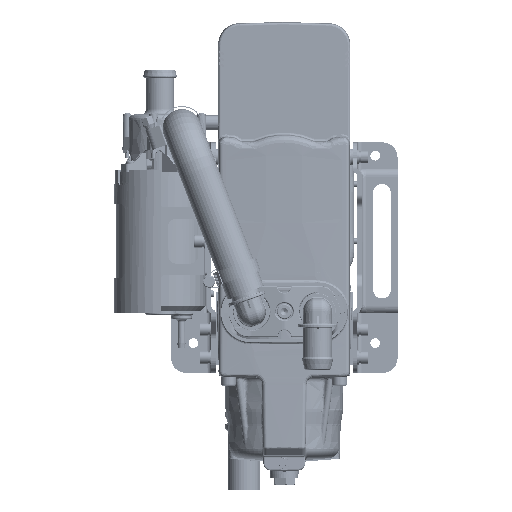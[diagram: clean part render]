
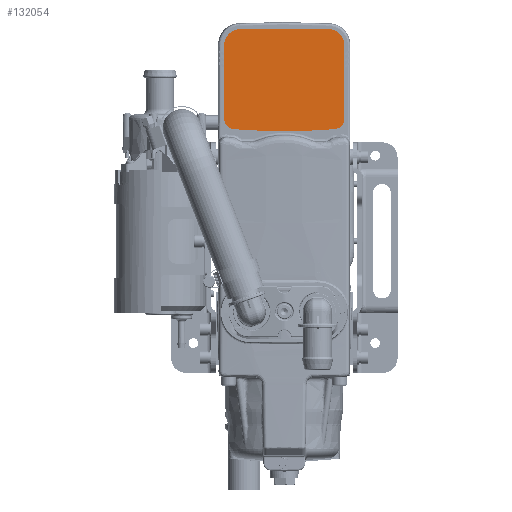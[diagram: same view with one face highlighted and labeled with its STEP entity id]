
A CAD part, front view. The second image highlights one B-rep face of the part: STEP entity #132054.
In plain terms, the highlighted planar face has unit normal (0, -1, 0).
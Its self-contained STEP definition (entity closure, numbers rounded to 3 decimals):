
#1310 = VERTEX_POINT ( 'NONE', #360864 ) ;
#2999 = CIRCLE ( 'NONE', #163558, 11.252 ) ;
#3637 = DIRECTION ( 'NONE',  ( 0., 0., -1. ) ) ;
#7948 = AXIS2_PLACEMENT_3D ( 'NONE', #52072, #330786, #440317 ) ;
#8340 = VERTEX_POINT ( 'NONE', #16559 ) ;
#16559 = CARTESIAN_POINT ( 'NONE',  ( -13.461, 128.99, 667.293 ) ) ;
#24736 = CARTESIAN_POINT ( 'NONE',  ( 60.728, 128.99, 674.517 ) ) ;
#25340 = ORIENTED_EDGE ( 'NONE', *, *, #266203, .T. ) ;
#27252 = AXIS2_PLACEMENT_3D ( 'NONE', #419494, #348677, #3637 ) ;
#27519 = EDGE_CURVE ( 'NONE', #37911, #448576, #249853, .T. ) ;
#37280 = CIRCLE ( 'NONE', #395009, 7.25 ) ;
#37911 = VERTEX_POINT ( 'NONE', #304755 ) ;
#44214 = CARTESIAN_POINT ( 'NONE',  ( -20.082, 128.99, -2.558 ) ) ;
#48768 = LINE ( 'NONE', #138672, #214963 ) ;
#49953 = ORIENTED_EDGE ( 'NONE', *, *, #377100, .T. ) ;
#52072 = CARTESIAN_POINT ( 'NONE',  ( 20.316, 128.99, 1063.359 ) ) ;
#58261 = EDGE_LOOP ( 'NONE', ( #49953, #244559, #133042, #286955, #271293, #25340, #291588, #105146, #297446, #74682 ) ) ;
#60861 = EDGE_CURVE ( 'NONE', #448576, #385231, #187797, .T. ) ;
#63177 = CARTESIAN_POINT ( 'NONE',  ( 0., 128.99, -2.557 ) ) ;
#74682 = ORIENTED_EDGE ( 'NONE', *, *, #60861, .T. ) ;
#82259 = DIRECTION ( 'NONE',  ( 0., -1., 0. ) ) ;
#86782 = DIRECTION ( 'NONE',  ( -1., 0., 0. ) ) ;
#88253 = CIRCLE ( 'NONE', #7948, 397.504 ) ;
#96712 = DIRECTION ( 'NONE',  ( -1., 0., 0.001 ) ) ;
#105146 = ORIENTED_EDGE ( 'NONE', *, *, #278396, .T. ) ;
#117456 = EDGE_CURVE ( 'NONE', #1310, #259241, #153840, .T. ) ;
#119962 = VECTOR ( 'NONE', #226845, 1000. ) ;
#121549 = DIRECTION ( 'NONE',  ( 0., 0., -1. ) ) ;
#132054 = ADVANCED_FACE ( 'NONE', ( #326691 ), #155329, .T. ) ;
#133042 = ORIENTED_EDGE ( 'NONE', *, *, #117456, .T. ) ;
#134304 = CARTESIAN_POINT ( 'NONE',  ( 60.728, 128.99, 723.462 ) ) ;
#138672 = CARTESIAN_POINT ( 'NONE',  ( 60.728, 128.99, -2.557 ) ) ;
#142808 = CARTESIAN_POINT ( 'NONE',  ( 53.478, 128.99, 674.517 ) ) ;
#144904 = CARTESIAN_POINT ( 'NONE',  ( 60.714, 128.99, -2.558 ) ) ;
#153840 = LINE ( 'NONE', #44214, #119962 ) ;
#155329 = PLANE ( 'NONE',  #235265 ) ;
#163029 = LINE ( 'NONE', #407382, #333474 ) ;
#163558 = AXIS2_PLACEMENT_3D ( 'NONE', #450545, #347713, #382000 ) ;
#179362 = DIRECTION ( 'NONE',  ( 0., -1., 0. ) ) ;
#187797 = CIRCLE ( 'NONE', #27252, 11.252 ) ;
#192187 = CARTESIAN_POINT ( 'NONE',  ( -12.846, 128.99, 674.517 ) ) ;
#193107 = VERTEX_POINT ( 'NONE', #24736 ) ;
#194685 = VERTEX_POINT ( 'NONE', #229830 ) ;
#197527 = CARTESIAN_POINT ( 'NONE',  ( -9.137, 128.99, 734.768 ) ) ;
#202208 = EDGE_CURVE ( 'NONE', #354902, #193107, #368426, .T. ) ;
#209740 = CARTESIAN_POINT ( 'NONE',  ( 54.094, 128.99, 667.293 ) ) ;
#214963 = VECTOR ( 'NONE', #421851, 1000. ) ;
#224325 = LINE ( 'NONE', #365956, #415340 ) ;
#226845 = DIRECTION ( 'NONE',  ( 0., 0., -1. ) ) ;
#229830 = CARTESIAN_POINT ( 'NONE',  ( -20.096, 128.99, 674.517 ) ) ;
#230361 = CARTESIAN_POINT ( 'NONE',  ( -20.096, 128.99, 718.494 ) ) ;
#235265 = AXIS2_PLACEMENT_3D ( 'NONE', #63177, #82259, #86782 ) ;
#244559 = ORIENTED_EDGE ( 'NONE', *, *, #370878, .T. ) ;
#249853 = LINE ( 'NONE', #144904, #296409 ) ;
#258351 = DIRECTION ( 'NONE',  ( 0., -1., 0. ) ) ;
#259241 = VERTEX_POINT ( 'NONE', #230361 ) ;
#263583 = EDGE_CURVE ( 'NONE', #259241, #194685, #224325, .T. ) ;
#266203 = EDGE_CURVE ( 'NONE', #8340, #354902, #88253, .T. ) ;
#271293 = ORIENTED_EDGE ( 'NONE', *, *, #384297, .T. ) ;
#278396 = EDGE_CURVE ( 'NONE', #193107, #37911, #48768, .T. ) ;
#286955 = ORIENTED_EDGE ( 'NONE', *, *, #263583, .T. ) ;
#291588 = ORIENTED_EDGE ( 'NONE', *, *, #202208, .T. ) ;
#296409 = VECTOR ( 'NONE', #355032, 1000. ) ;
#297446 = ORIENTED_EDGE ( 'NONE', *, *, #27519, .T. ) ;
#304755 = CARTESIAN_POINT ( 'NONE',  ( 60.728, 128.99, 718.494 ) ) ;
#326691 = FACE_OUTER_BOUND ( 'NONE', #58261, .T. ) ;
#330786 = DIRECTION ( 'NONE',  ( 0., -1., 0. ) ) ;
#333474 = VECTOR ( 'NONE', #96712, 1000. ) ;
#335143 = VERTEX_POINT ( 'NONE', #197527 ) ;
#347713 = DIRECTION ( 'NONE',  ( 0., -1., 0. ) ) ;
#348677 = DIRECTION ( 'NONE',  ( 0., -1., 0. ) ) ;
#354902 = VERTEX_POINT ( 'NONE', #209740 ) ;
#355032 = DIRECTION ( 'NONE',  ( 0., 0., 1. ) ) ;
#360864 = CARTESIAN_POINT ( 'NONE',  ( -20.096, 128.99, 723.523 ) ) ;
#365956 = CARTESIAN_POINT ( 'NONE',  ( -20.096, 128.99, -2.557 ) ) ;
#368426 = CIRCLE ( 'NONE', #433969, 7.25 ) ;
#370878 = EDGE_CURVE ( 'NONE', #335143, #1310, #2999, .T. ) ;
#377100 = EDGE_CURVE ( 'NONE', #385231, #335143, #163029, .T. ) ;
#382000 = DIRECTION ( 'NONE',  ( 0., 0., -1. ) ) ;
#384297 = EDGE_CURVE ( 'NONE', #194685, #8340, #37280, .T. ) ;
#385231 = VERTEX_POINT ( 'NONE', #398383 ) ;
#387168 = DIRECTION ( 'NONE',  ( 0., 0., -1. ) ) ;
#395009 = AXIS2_PLACEMENT_3D ( 'NONE', #192187, #258351, #400014 ) ;
#398383 = CARTESIAN_POINT ( 'NONE',  ( 49.775, 128.99, 734.707 ) ) ;
#400014 = DIRECTION ( 'NONE',  ( 0., 0., -1. ) ) ;
#407382 = CARTESIAN_POINT ( 'NONE',  ( 0.759, 128.99, 734.758 ) ) ;
#415340 = VECTOR ( 'NONE', #121549, 1000. ) ;
#419494 = CARTESIAN_POINT ( 'NONE',  ( 49.476, 128.99, 723.459 ) ) ;
#421851 = DIRECTION ( 'NONE',  ( 0., 0., 1. ) ) ;
#433969 = AXIS2_PLACEMENT_3D ( 'NONE', #142808, #179362, #387168 ) ;
#440317 = DIRECTION ( 'NONE',  ( 0., 0., -1. ) ) ;
#448576 = VERTEX_POINT ( 'NONE', #134304 ) ;
#450545 = CARTESIAN_POINT ( 'NONE',  ( -8.844, 128.99, 723.519 ) ) ;
